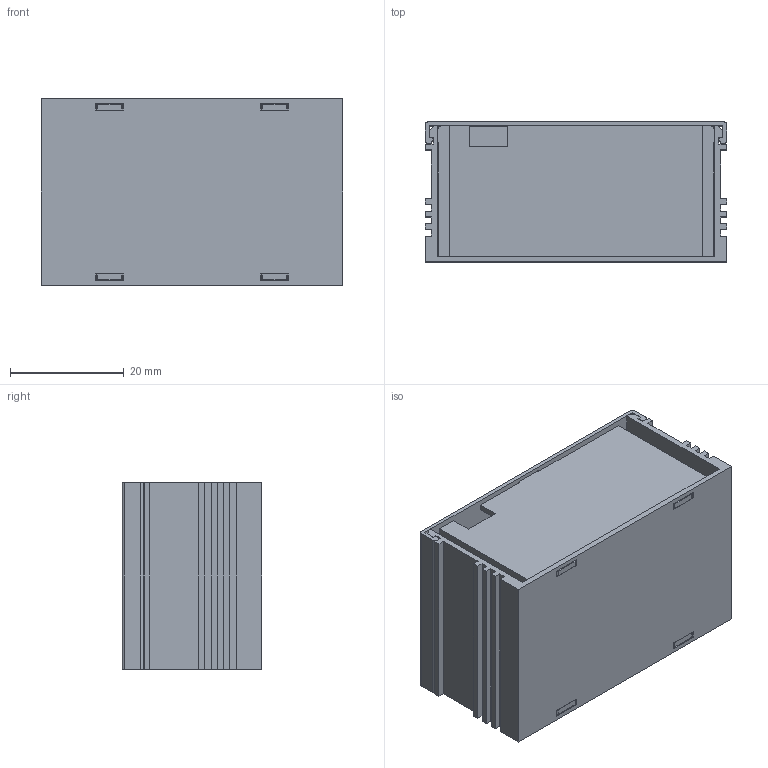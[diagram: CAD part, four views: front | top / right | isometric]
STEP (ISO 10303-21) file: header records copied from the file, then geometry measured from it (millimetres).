
FILE_DESCRIPTION((''),'2;1');
FILE_NAME('SVES_XINGCAI_CASE_ASM','2026-03-16T10:52:26',('15365'),(''),'CREO PARAMETRIC BY PTC INC, 2025323','CREO PARAMETRIC BY PTC INC, 2025323','');
FILE_SCHEMA(('CONFIG_CONTROL_DESIGN'));
Length unit declared in the file: millimetre
Products named in the file (4): SVES_XINGCAI_BOTTOM; SVES_XINGCAI_TOP; SVES_XINGCAI_CEGAI1; SVES_XINGCAI_CASE_ASM
Assembly tree (4 placements, depth 2):
  SVES_XINGCAI_CASE_ASM
    SVES_XINGCAI_BOTTOM
    SVES_XINGCAI_TOP
    SVES_XINGCAI_CEGAI1  x2
Bounding box: 53 x 24.6 x 32.8 mm (x, y, z)
Volume: 7595.7 mm3; surface area: 16721 mm2
Topology: 4 solids, 4 shells, 226 faces, 654 edges, 436 vertices
Faces by surface type: plane 192, cylinder 34
Entity records: 5924 total; most frequent: CARTESIAN_POINT 1046, ORIENTED_EDGE 1032, DIRECTION 932, EDGE_CURVE 516, VECTOR 472, LINE 472, VERTEX_POINT 344, AXIS2_PLACEMENT_3D 230
